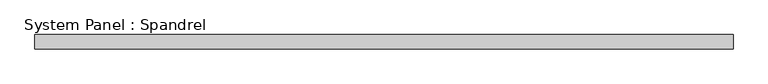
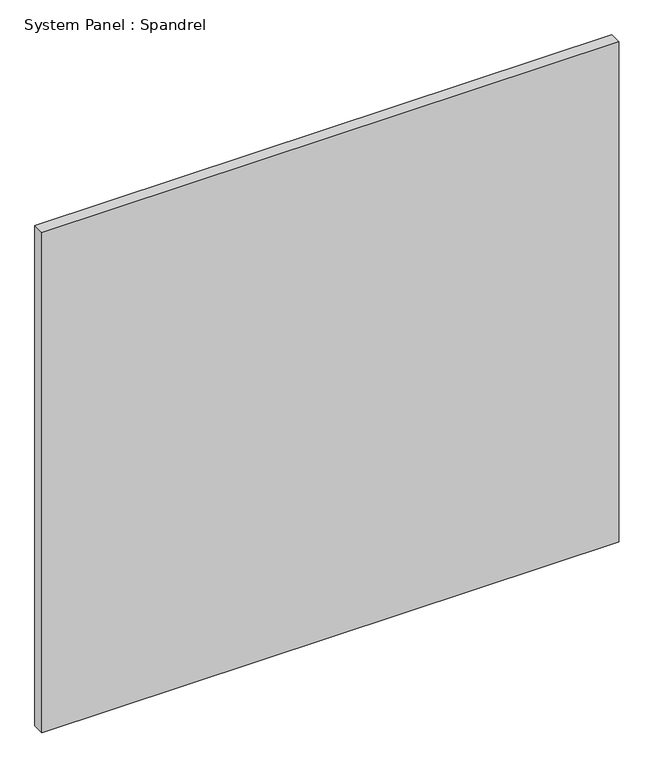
"""IFC4 building model written with IfcOpenShell, lengths in millimetres: plate geometry, System Panel : Spandrel."""

from ifc_helpers import new_model, si_unit, origin, origin_with_axes, place, context, project, spatial, polyline, outline, extrude, source, transform, mapped, element, save


def system_panel_spandrel_e244779f(model_context):
    return source(origin(), model_context, "Body", "SweptSolid", [
        extrude(outline(polyline([(600.0, -25.0), (-600.0, -25.0), (-600.0, 0.0), (600.0, 0.0), (600.0, -25.0)])), origin_with_axes(), (0.0, 0.0, 1.0), 1100.0),
    ])


if __name__ == "__main__":
    model = new_model("IFC4")
    model_context = context("Model", 3, world=origin())
    ifc_project = project(units=[si_unit("LENGTHUNIT", "METRE", prefix="MILLI")], contexts=[model_context])
    site = spatial("IfcSite", under=ifc_project)
    building = spatial("IfcBuilding", under=site)
    placement = place(None, origin())
    system_panel_spandrel_shape = system_panel_spandrel_e244779f(model_context)
    element("IfcPlate", 1, ObjectType="System Panel : Spandrel", at=placement, inside=building, context=model_context, shape_type="MappedRepresentation", body=[
        mapped(system_panel_spandrel_shape, transform((0.0, 0.0, 0.0), x_axis=(1.0, 0.0, 0.0), y_axis=(0.0, 1.0, 0.0), z_axis=(0.0, 0.0, 1.0))),
    ])
    save(model, "model.ifc")
